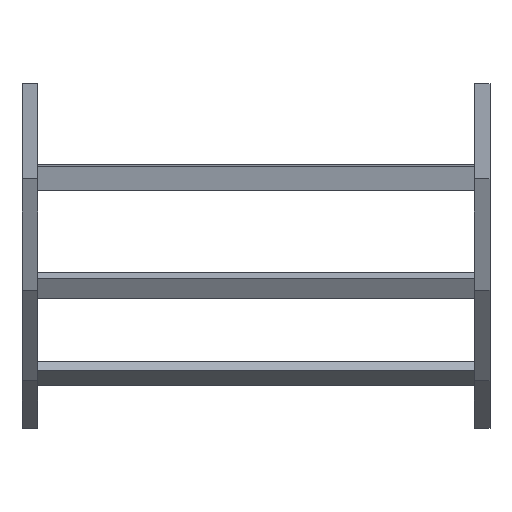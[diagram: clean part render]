
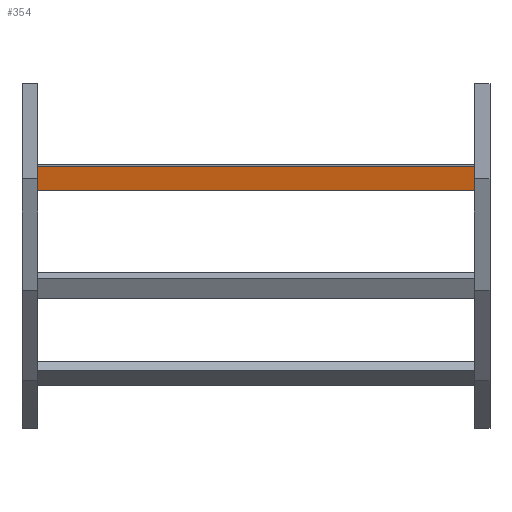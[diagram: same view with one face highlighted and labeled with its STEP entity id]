
A CAD part, front view. The second image highlights one B-rep face of the part: STEP entity #354.
In plain terms, the highlighted planar face has unit normal (0, -0.985, -0.174) as drawn and (0, -1, 0) by its records, which use the part's own axes.
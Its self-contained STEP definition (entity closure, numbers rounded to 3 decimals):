
#39 = CARTESIAN_POINT ( 'NONE',  ( 398., 0., 20.25 ) ) ;
#42 = CARTESIAN_POINT ( 'NONE',  ( -398., 0., 20.25 ) ) ;
#96 = EDGE_LOOP ( 'NONE', ( #528, #1643, #707, #255 ) ) ;
#133 = AXIS2_PLACEMENT_3D ( 'NONE', #1276, #624, #1142 ) ;
#171 = EDGE_CURVE ( 'NONE', #1637, #1175, #1109, .T. ) ;
#178 = DIRECTION ( 'NONE',  ( 0., 0., -1. ) ) ;
#255 = ORIENTED_EDGE ( 'NONE', *, *, #1443, .T. ) ;
#336 = VECTOR ( 'NONE', #1408, 1000. ) ;
#351 = FACE_OUTER_BOUND ( 'NONE', #96, .T. ) ;
#354 = ADVANCED_FACE ( 'NONE', ( #351 ), #884, .F. ) ;
#528 = ORIENTED_EDGE ( 'NONE', *, *, #171, .T. ) ;
#536 = DIRECTION ( 'NONE',  ( -1., 0., 0. ) ) ;
#624 = DIRECTION ( 'NONE',  ( 0., 1., 0. ) ) ;
#671 = CARTESIAN_POINT ( 'NONE',  ( -398., 0., -20.25 ) ) ;
#707 = ORIENTED_EDGE ( 'NONE', *, *, #1523, .F. ) ;
#733 = LINE ( 'NONE', #39, #1405 ) ;
#736 = EDGE_CURVE ( 'NONE', #1402, #1175, #737, .T. ) ;
#737 = LINE ( 'NONE', #890, #336 ) ;
#852 = CARTESIAN_POINT ( 'NONE',  ( 398., 0., 20.25 ) ) ;
#884 = PLANE ( 'NONE',  #133 ) ;
#890 = CARTESIAN_POINT ( 'NONE',  ( 398., 0., -20.25 ) ) ;
#926 = CARTESIAN_POINT ( 'NONE',  ( 398., 0., 20.25 ) ) ;
#966 = VECTOR ( 'NONE', #178, 1000. ) ;
#1109 = LINE ( 'NONE', #42, #966 ) ;
#1142 = DIRECTION ( 'NONE',  ( 0., 0., 1. ) ) ;
#1175 = VERTEX_POINT ( 'NONE', #671 ) ;
#1211 = DIRECTION ( 'NONE',  ( 0., 0., -1. ) ) ;
#1276 = CARTESIAN_POINT ( 'NONE',  ( 398., 0., 20.25 ) ) ;
#1323 = VECTOR ( 'NONE', #536, 1000. ) ;
#1327 = LINE ( 'NONE', #926, #1323 ) ;
#1402 = VERTEX_POINT ( 'NONE', #1426 ) ;
#1405 = VECTOR ( 'NONE', #1211, 1000. ) ;
#1408 = DIRECTION ( 'NONE',  ( -1., 0., 0. ) ) ;
#1426 = CARTESIAN_POINT ( 'NONE',  ( 398., 0., -20.25 ) ) ;
#1443 = EDGE_CURVE ( 'NONE', #1589, #1637, #1327, .T. ) ;
#1523 = EDGE_CURVE ( 'NONE', #1589, #1402, #733, .T. ) ;
#1589 = VERTEX_POINT ( 'NONE', #852 ) ;
#1637 = VERTEX_POINT ( 'NONE', #1652 ) ;
#1643 = ORIENTED_EDGE ( 'NONE', *, *, #736, .F. ) ;
#1652 = CARTESIAN_POINT ( 'NONE',  ( -398., 0., 20.25 ) ) ;
